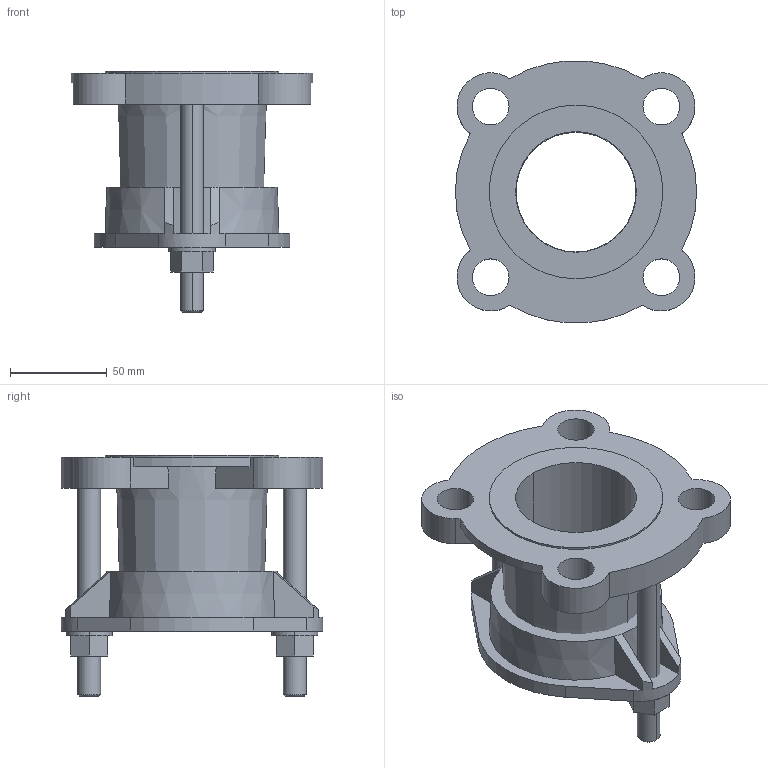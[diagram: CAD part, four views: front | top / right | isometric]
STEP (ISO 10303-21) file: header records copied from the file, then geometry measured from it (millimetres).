
FILE_DESCRIPTION((''),'2;1');
FILE_NAME('FLEXLOCK_60-3_PN_ASM','2020-07-28T',('MReader'),(''),'CREO PARAMETRIC BY PTC INC, 2016130','CREO PARAMETRIC BY PTC INC, 2016130','');
FILE_SCHEMA(('CONFIG_CONTROL_DESIGN'));
Length unit declared in the file: millimetre
Products named in the file (3): FLEXLOCK_ADAPTOR_60-3; FLEXLOCK_ENDRING_60-3; FLEXLOCK_60-3_PN_ASM
Assembly tree (2 placements, depth 2):
  FLEXLOCK_60-3_PN_ASM
    FLEXLOCK_ADAPTOR_60-3
    FLEXLOCK_ENDRING_60-3
Bounding box: 125 x 135.61 x 125 mm (x, y, z)
Volume: 402134.4 mm3; surface area: 102141.5 mm2
Topology: 2 solids, 2 shells, 95 faces, 240 edges, 156 vertices
Faces by surface type: plane 47, cylinder 34, cone 14
Entity records: 3038 total; most frequent: CARTESIAN_POINT 596, DIRECTION 512, ORIENTED_EDGE 480, EDGE_CURVE 240, AXIS2_PLACEMENT_3D 196, VERTEX_POINT 156, VECTOR 120, LINE 120
